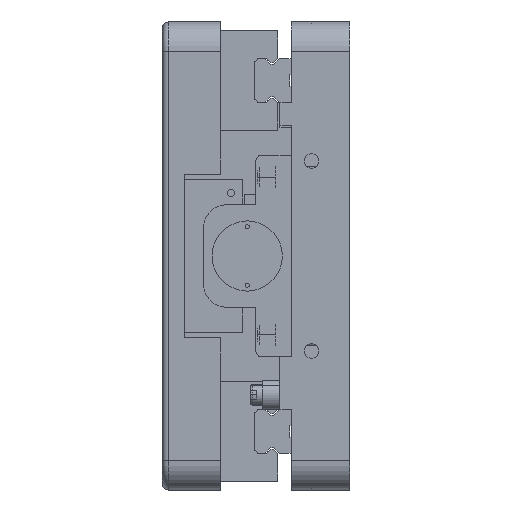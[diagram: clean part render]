
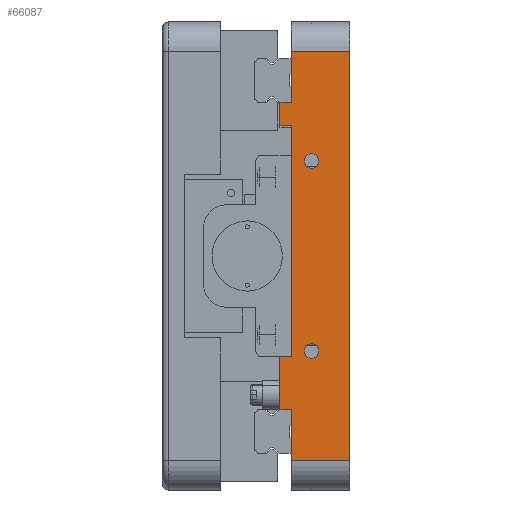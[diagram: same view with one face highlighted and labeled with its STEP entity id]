
A CAD part, left-side view. The second image highlights one B-rep face of the part: STEP entity #66087.
In plain terms, the highlighted planar face has unit normal (-1, 0, 0).
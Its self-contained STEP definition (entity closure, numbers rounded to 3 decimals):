
#1163 = EDGE_CURVE ( 'NONE', #78953, #45860, #17176, .T. ) ;
#2585 = LINE ( 'NONE', #56390, #78041 ) ;
#3168 = ORIENTED_EDGE ( 'NONE', *, *, #18517, .T. ) ;
#3222 = DIRECTION ( 'NONE',  ( 0., 0., 1. ) ) ;
#3867 = DIRECTION ( 'NONE',  ( 0., 0., -1. ) ) ;
#3904 = AXIS2_PLACEMENT_3D ( 'NONE', #32682, #54777, #17350 ) ;
#5506 = DIRECTION ( 'NONE',  ( 0., 0., 1. ) ) ;
#5612 = DIRECTION ( 'NONE',  ( 0., 0., -1. ) ) ;
#5802 = DIRECTION ( 'NONE',  ( -1., 0., 0. ) ) ;
#5941 = DIRECTION ( 'NONE',  ( 0., 0., -1. ) ) ;
#6812 = LINE ( 'NONE', #68633, #10198 ) ;
#7303 = VERTEX_POINT ( 'NONE', #26911 ) ;
#7693 = LINE ( 'NONE', #24740, #78598 ) ;
#7990 = CARTESIAN_POINT ( 'NONE',  ( -371.5, 20., 44.5 ) ) ;
#8919 = CARTESIAN_POINT ( 'NONE',  ( -371.5, 13., -35. ) ) ;
#10198 = VECTOR ( 'NONE', #11059, 1000. ) ;
#10952 = EDGE_CURVE ( 'NONE', #45190, #64735, #17099, .T. ) ;
#11059 = DIRECTION ( 'NONE',  ( 0., 1., 0. ) ) ;
#11292 = FACE_BOUND ( 'NONE', #93058, .T. ) ;
#12214 = VERTEX_POINT ( 'NONE', #83319 ) ;
#12285 = VECTOR ( 'NONE', #5612, 1000. ) ;
#12432 = CIRCLE ( 'NONE', #33606, 2.5 ) ;
#13273 = PLANE ( 'NONE',  #73479 ) ;
#14759 = FACE_BOUND ( 'NONE', #15653, .T. ) ;
#15653 = EDGE_LOOP ( 'NONE', ( #22769, #35173 ) ) ;
#15730 = EDGE_LOOP ( 'NONE', ( #88000, #66441, #16724, #3168, #82727, #58357, #45816, #87180, #91359, #93987, #61921, #31750 ) ) ;
#16211 = CARTESIAN_POINT ( 'NONE',  ( -371.5, 13., -30. ) ) ;
#16260 = CARTESIAN_POINT ( 'NONE',  ( -371.5, 0., 70. ) ) ;
#16724 = ORIENTED_EDGE ( 'NONE', *, *, #43658, .T. ) ;
#17099 = CIRCLE ( 'NONE', #25658, 2.5 ) ;
#17176 = LINE ( 'NONE', #69752, #34304 ) ;
#17350 = DIRECTION ( 'NONE',  ( 0., 0., 1. ) ) ;
#17979 = ORIENTED_EDGE ( 'NONE', *, *, #10952, .F. ) ;
#18011 = VERTEX_POINT ( 'NONE', #16211 ) ;
#18517 = EDGE_CURVE ( 'NONE', #53156, #53170, #6812, .T. ) ;
#19156 = EDGE_CURVE ( 'NONE', #18011, #20115, #71121, .T. ) ;
#19948 = CARTESIAN_POINT ( 'NONE',  ( -371.5, 13., 30. ) ) ;
#20115 = VERTEX_POINT ( 'NONE', #8919 ) ;
#21698 = CARTESIAN_POINT ( 'NONE',  ( -371.5, -743.509, -52.5 ) ) ;
#22322 = CARTESIAN_POINT ( 'NONE',  ( -371.5, 23.8, 44.5 ) ) ;
#22769 = ORIENTED_EDGE ( 'NONE', *, *, #19156, .F. ) ;
#24740 = CARTESIAN_POINT ( 'NONE',  ( -371.5, -110.209, 44.5 ) ) ;
#24813 = VERTEX_POINT ( 'NONE', #76414 ) ;
#25391 = DIRECTION ( 'NONE',  ( 0., 1., 0. ) ) ;
#25658 = AXIS2_PLACEMENT_3D ( 'NONE', #66585, #81271, #88938 ) ;
#26853 = CARTESIAN_POINT ( 'NONE',  ( -371.5, -110.209, -34.5 ) ) ;
#26911 = CARTESIAN_POINT ( 'NONE',  ( -371.5, 23.8, -52.5 ) ) ;
#27183 = VECTOR ( 'NONE', #5506, 1000. ) ;
#28994 = VECTOR ( 'NONE', #58801, 1000. ) ;
#29806 = EDGE_CURVE ( 'NONE', #89784, #79642, #2585, .T. ) ;
#31750 = ORIENTED_EDGE ( 'NONE', *, *, #34886, .T. ) ;
#31835 = FACE_OUTER_BOUND ( 'NONE', #15730, .T. ) ;
#32682 = CARTESIAN_POINT ( 'NONE',  ( -371.5, 13., 32.5 ) ) ;
#33593 = DIRECTION ( 'NONE',  ( 0., -1., 0. ) ) ;
#33606 = AXIS2_PLACEMENT_3D ( 'NONE', #49629, #5802, #93738 ) ;
#34304 = VECTOR ( 'NONE', #40344, 1000. ) ;
#34886 = EDGE_CURVE ( 'NONE', #54952, #91253, #81703, .T. ) ;
#35173 = ORIENTED_EDGE ( 'NONE', *, *, #54640, .F. ) ;
#35178 = EDGE_CURVE ( 'NONE', #12214, #7303, #47291, .T. ) ;
#38050 = LINE ( 'NONE', #52536, #72392 ) ;
#39563 = EDGE_CURVE ( 'NONE', #91253, #78953, #66133, .T. ) ;
#39643 = CIRCLE ( 'NONE', #3904, 2.5 ) ;
#39834 = VECTOR ( 'NONE', #40462, 1000. ) ;
#40344 = DIRECTION ( 'NONE',  ( 0., 1., 0. ) ) ;
#40462 = DIRECTION ( 'NONE',  ( 0., 0., 1. ) ) ;
#43585 = ORIENTED_EDGE ( 'NONE', *, *, #60050, .F. ) ;
#43658 = EDGE_CURVE ( 'NONE', #45860, #53156, #76326, .T. ) ;
#44894 = CARTESIAN_POINT ( 'NONE',  ( -371.5, 0., -70. ) ) ;
#45190 = VERTEX_POINT ( 'NONE', #19948 ) ;
#45816 = ORIENTED_EDGE ( 'NONE', *, *, #29806, .T. ) ;
#45860 = VERTEX_POINT ( 'NONE', #52476 ) ;
#46079 = CARTESIAN_POINT ( 'NONE',  ( -371.5, 13., -32.5 ) ) ;
#46153 = CARTESIAN_POINT ( 'NONE',  ( -371.5, 20., -34.5 ) ) ;
#46400 = DIRECTION ( 'NONE',  ( -1., 0., 0. ) ) ;
#47291 = LINE ( 'NONE', #21698, #28994 ) ;
#48029 = VECTOR ( 'NONE', #3867, 1000. ) ;
#49629 = CARTESIAN_POINT ( 'NONE',  ( -371.5, 13., -32.5 ) ) ;
#50351 = LINE ( 'NONE', #92770, #48029 ) ;
#50591 = VERTEX_POINT ( 'NONE', #22322 ) ;
#52476 = CARTESIAN_POINT ( 'NONE',  ( -371.5, 20., 70. ) ) ;
#52536 = CARTESIAN_POINT ( 'NONE',  ( -371.5, 23.8, -80. ) ) ;
#52802 = CARTESIAN_POINT ( 'NONE',  ( -371.5, 23.8, -70. ) ) ;
#53156 = VERTEX_POINT ( 'NONE', #54254 ) ;
#53170 = VERTEX_POINT ( 'NONE', #68292 ) ;
#54254 = CARTESIAN_POINT ( 'NONE',  ( -371.5, 20., 52.5 ) ) ;
#54640 = EDGE_CURVE ( 'NONE', #20115, #18011, #12432, .T. ) ;
#54777 = DIRECTION ( 'NONE',  ( -1., 0., 0. ) ) ;
#54952 = VERTEX_POINT ( 'NONE', #91113 ) ;
#56067 = CARTESIAN_POINT ( 'NONE',  ( -371.5, 0., -80. ) ) ;
#56390 = CARTESIAN_POINT ( 'NONE',  ( -371.5, 20., 44.5 ) ) ;
#57133 = CARTESIAN_POINT ( 'NONE',  ( -371.5, 23.8, -80. ) ) ;
#57754 = EDGE_CURVE ( 'NONE', #89784, #50591, #7693, .T. ) ;
#58357 = ORIENTED_EDGE ( 'NONE', *, *, #57754, .F. ) ;
#58801 = DIRECTION ( 'NONE',  ( 0., 1., 0. ) ) ;
#60050 = EDGE_CURVE ( 'NONE', #64735, #45190, #39643, .T. ) ;
#61921 = ORIENTED_EDGE ( 'NONE', *, *, #63569, .T. ) ;
#62267 = EDGE_CURVE ( 'NONE', #7303, #24813, #38050, .T. ) ;
#62894 = VECTOR ( 'NONE', #92125, 1000. ) ;
#63475 = EDGE_CURVE ( 'NONE', #79642, #24813, #93936, .T. ) ;
#63569 = EDGE_CURVE ( 'NONE', #12214, #54952, #50351, .T. ) ;
#64735 = VERTEX_POINT ( 'NONE', #89950 ) ;
#66087 = ADVANCED_FACE ( 'NONE', ( #14759, #11292, #31835 ), #13273, .F. ) ;
#66133 = LINE ( 'NONE', #56067, #27183 ) ;
#66441 = ORIENTED_EDGE ( 'NONE', *, *, #1163, .T. ) ;
#66585 = CARTESIAN_POINT ( 'NONE',  ( -371.5, 13., 32.5 ) ) ;
#68292 = CARTESIAN_POINT ( 'NONE',  ( -371.5, 23.8, 52.5 ) ) ;
#68633 = CARTESIAN_POINT ( 'NONE',  ( -371.5, -743.509, 52.5 ) ) ;
#69752 = CARTESIAN_POINT ( 'NONE',  ( -371.5, 23.8, 70. ) ) ;
#71121 = CIRCLE ( 'NONE', #78817, 2.5 ) ;
#72392 = VECTOR ( 'NONE', #88056, 1000. ) ;
#73479 = AXIS2_PLACEMENT_3D ( 'NONE', #57133, #94518, #5941 ) ;
#75926 = CARTESIAN_POINT ( 'NONE',  ( -371.5, 23.8, -80. ) ) ;
#76326 = LINE ( 'NONE', #79142, #12285 ) ;
#76414 = CARTESIAN_POINT ( 'NONE',  ( -371.5, 23.8, -34.5 ) ) ;
#78041 = VECTOR ( 'NONE', #92439, 1000. ) ;
#78598 = VECTOR ( 'NONE', #25391, 1000. ) ;
#78817 = AXIS2_PLACEMENT_3D ( 'NONE', #46079, #46400, #3222 ) ;
#78953 = VERTEX_POINT ( 'NONE', #16260 ) ;
#79142 = CARTESIAN_POINT ( 'NONE',  ( -371.5, 20., 80. ) ) ;
#79642 = VERTEX_POINT ( 'NONE', #46153 ) ;
#79896 = LINE ( 'NONE', #75926, #39834 ) ;
#81271 = DIRECTION ( 'NONE',  ( -1., 0., 0. ) ) ;
#81703 = LINE ( 'NONE', #52802, #93182 ) ;
#82727 = ORIENTED_EDGE ( 'NONE', *, *, #93270, .F. ) ;
#83319 = CARTESIAN_POINT ( 'NONE',  ( -371.5, 20., -52.5 ) ) ;
#87180 = ORIENTED_EDGE ( 'NONE', *, *, #63475, .T. ) ;
#88000 = ORIENTED_EDGE ( 'NONE', *, *, #39563, .T. ) ;
#88056 = DIRECTION ( 'NONE',  ( 0., 0., 1. ) ) ;
#88938 = DIRECTION ( 'NONE',  ( 0., 0., 1. ) ) ;
#89784 = VERTEX_POINT ( 'NONE', #7990 ) ;
#89950 = CARTESIAN_POINT ( 'NONE',  ( -371.5, 13., 35. ) ) ;
#91113 = CARTESIAN_POINT ( 'NONE',  ( -371.5, 20., -70. ) ) ;
#91253 = VERTEX_POINT ( 'NONE', #44894 ) ;
#91359 = ORIENTED_EDGE ( 'NONE', *, *, #62267, .F. ) ;
#92125 = DIRECTION ( 'NONE',  ( 0., 1., 0. ) ) ;
#92439 = DIRECTION ( 'NONE',  ( 0., 0., -1. ) ) ;
#92770 = CARTESIAN_POINT ( 'NONE',  ( -371.5, 20., -80. ) ) ;
#93058 = EDGE_LOOP ( 'NONE', ( #43585, #17979 ) ) ;
#93182 = VECTOR ( 'NONE', #33593, 1000. ) ;
#93270 = EDGE_CURVE ( 'NONE', #50591, #53170, #79896, .T. ) ;
#93738 = DIRECTION ( 'NONE',  ( 0., 0., 1. ) ) ;
#93936 = LINE ( 'NONE', #26853, #62894 ) ;
#93987 = ORIENTED_EDGE ( 'NONE', *, *, #35178, .F. ) ;
#94518 = DIRECTION ( 'NONE',  ( 1., 0., 0. ) ) ;
